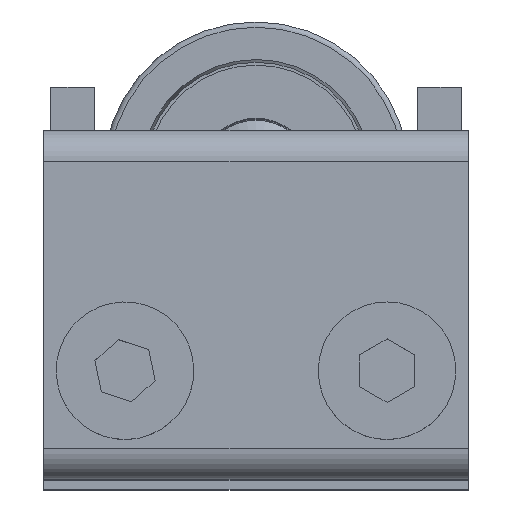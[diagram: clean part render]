
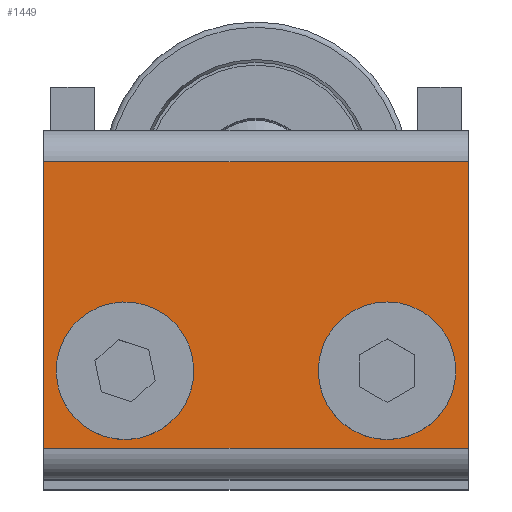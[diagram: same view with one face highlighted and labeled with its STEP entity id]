
A CAD part, top view. The second image highlights one B-rep face of the part: STEP entity #1449.
In plain terms, the highlighted planar face has unit normal (0, 0, 1) as drawn and (0, 0, -1) by its records, which use the part's own axes.
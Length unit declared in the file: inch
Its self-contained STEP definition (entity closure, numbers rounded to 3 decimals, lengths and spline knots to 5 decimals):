
#1138=DIRECTION('',(0.,-1.,0.));
#1139=VECTOR('',#1138,0.82);
#1140=CARTESIAN_POINT('',(-0.6075,0.41,-0.18));
#1141=LINE('',#1140,#1139);
#1164=DIRECTION('',(0.,-1.,0.));
#1165=VECTOR('',#1164,0.82);
#1166=CARTESIAN_POINT('',(0.6075,0.41,-0.18));
#1167=LINE('',#1166,#1165);
#1168=CARTESIAN_POINT('',(0.375,-0.188,-0.18));
#1169=DIRECTION('',(0.,0.,1.));
#1170=DIRECTION('',(1.,0.,0.));
#1171=AXIS2_PLACEMENT_3D('',#1168,#1169,#1170);
#1173=CARTESIAN_POINT('',(0.375,-0.188,-0.18));
#1174=DIRECTION('',(0.,0.,1.));
#1175=DIRECTION('',(-1.,0.,0.));
#1176=AXIS2_PLACEMENT_3D('',#1173,#1174,#1175);
#1178=CARTESIAN_POINT('',(-0.375,-0.188,-0.18));
#1179=DIRECTION('',(0.,0.,1.));
#1180=DIRECTION('',(1.,0.,0.));
#1181=AXIS2_PLACEMENT_3D('',#1178,#1179,#1180);
#1183=CARTESIAN_POINT('',(-0.375,-0.188,-0.18));
#1184=DIRECTION('',(0.,0.,1.));
#1185=DIRECTION('',(-1.,0.,0.));
#1186=AXIS2_PLACEMENT_3D('',#1183,#1184,#1185);
#1192=DIRECTION('',(-1.,0.,0.));
#1193=VECTOR('',#1192,1.215);
#1194=CARTESIAN_POINT('',(0.6075,0.41,-0.18));
#1195=LINE('',#1194,#1193);
#1196=DIRECTION('',(1.,0.,0.));
#1197=VECTOR('',#1196,1.215);
#1198=CARTESIAN_POINT('',(-0.6075,-0.41,-0.18));
#1199=LINE('',#1198,#1197);
#1285=CARTESIAN_POINT('',(-0.6075,0.41,-0.18));
#1287=VERTEX_POINT('',#1285);
#1293=CARTESIAN_POINT('',(-0.25,-0.188,-0.18));
#1295=VERTEX_POINT('',#1293);
#1297=CARTESIAN_POINT('',(-0.5,-0.188,-0.18));
#1299=VERTEX_POINT('',#1297);
#1308=CARTESIAN_POINT('',(-0.6075,-0.41,-0.18));
#1310=VERTEX_POINT('',#1308);
#1314=CARTESIAN_POINT('',(0.25,-0.188,-0.18));
#1315=CARTESIAN_POINT('',(0.5,-0.188,-0.18));
#1316=VERTEX_POINT('',#1314);
#1317=VERTEX_POINT('',#1315);
#1325=CARTESIAN_POINT('',(0.6075,-0.41,-0.18));
#1327=VERTEX_POINT('',#1325);
#1336=CARTESIAN_POINT('',(0.6075,0.41,-0.18));
#1337=VERTEX_POINT('',#1336);
#1424=CARTESIAN_POINT('',(0.6075,0.5,-0.18));
#1425=DIRECTION('',(0.,0.,1.));
#1426=DIRECTION('',(0.,-1.,0.));
#1427=AXIS2_PLACEMENT_3D('',#1424,#1425,#1426);
#1428=PLANE('',#1427);
#1429=ORIENTED_EDGE('',*,*,#1376,.F.);
#1431=ORIENTED_EDGE('',*,*,#1430,.T.);
#1432=ORIENTED_EDGE('',*,*,#1403,.T.);
#1434=ORIENTED_EDGE('',*,*,#1433,.T.);
#1435=EDGE_LOOP('',(#1429,#1431,#1432,#1434));
#1436=FACE_OUTER_BOUND('',#1435,.F.);
#1438=ORIENTED_EDGE('',*,*,#1437,.F.);
#1440=ORIENTED_EDGE('',*,*,#1439,.F.);
#1441=EDGE_LOOP('',(#1438,#1440));
#1442=FACE_BOUND('',#1441,.F.);
#1444=ORIENTED_EDGE('',*,*,#1443,.F.);
#1446=ORIENTED_EDGE('',*,*,#1445,.F.);
#1447=EDGE_LOOP('',(#1444,#1446));
#1448=FACE_BOUND('',#1447,.F.);
#1172=CIRCLE('',#1171,0.125);
#1177=CIRCLE('',#1176,0.125);
#1182=CIRCLE('',#1181,0.125);
#1187=CIRCLE('',#1186,0.125);
#1376=EDGE_CURVE('',#1337,#1327,#1167,.T.);
#1403=EDGE_CURVE('',#1287,#1310,#1141,.T.);
#1430=EDGE_CURVE('',#1337,#1287,#1195,.T.);
#1433=EDGE_CURVE('',#1310,#1327,#1199,.T.);
#1437=EDGE_CURVE('',#1317,#1316,#1172,.T.);
#1439=EDGE_CURVE('',#1316,#1317,#1177,.T.);
#1443=EDGE_CURVE('',#1295,#1299,#1182,.T.);
#1445=EDGE_CURVE('',#1299,#1295,#1187,.T.);
#1449=ADVANCED_FACE('',(#1436,#1442,#1448),#1428,.F.);
